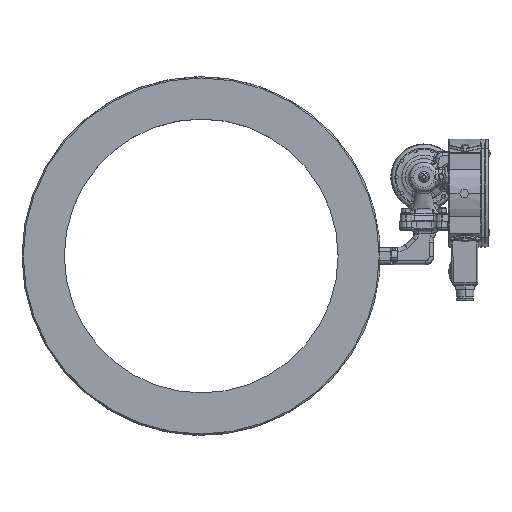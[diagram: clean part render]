
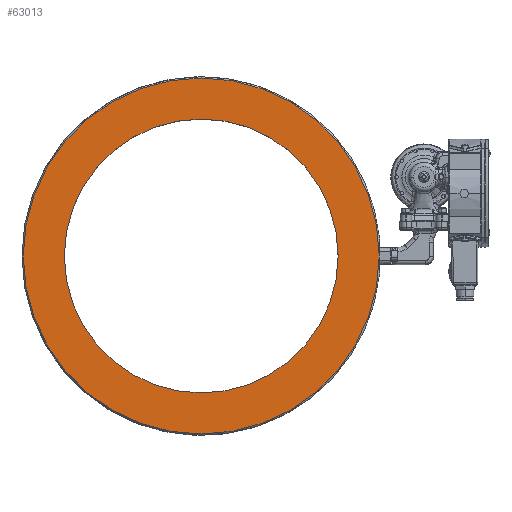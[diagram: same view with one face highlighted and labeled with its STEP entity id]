
A CAD part, top view. The second image highlights one B-rep face of the part: STEP entity #63013.
In plain terms, the highlighted planar face has unit normal (0, 0, 1).
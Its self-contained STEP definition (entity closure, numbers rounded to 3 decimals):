
#3829 = CARTESIAN_POINT ( 'NONE',  ( -276.69, 153.307, 57.468 ) ) ;
#8789 = VERTEX_POINT ( 'NONE', #33242 ) ;
#9644 = CARTESIAN_POINT ( 'NONE',  ( -276.69, -67.693, 57.468 ) ) ;
#9656 = EDGE_LOOP ( 'NONE', ( #34300, #86441 ) ) ;
#12800 = EDGE_CURVE ( 'NONE', #70460, #41458, #20972, .T. ) ;
#13115 = DIRECTION ( 'NONE',  ( 0., 0., -1. ) ) ;
#14732 = CIRCLE ( 'NONE', #26579, 170. ) ;
#15670 = DIRECTION ( 'NONE',  ( 1., 0., 0. ) ) ;
#17727 = DIRECTION ( 'NONE',  ( -1., 0., 0. ) ) ;
#20972 = CIRCLE ( 'NONE', #76804, 221. ) ;
#21550 = EDGE_CURVE ( 'NONE', #8789, #98481, #46839, .T. ) ;
#23385 = CARTESIAN_POINT ( 'NONE',  ( -276.69, -288.693, 57.468 ) ) ;
#24143 = DIRECTION ( 'NONE',  ( 0., 1., 0. ) ) ;
#24257 = DIRECTION ( 'NONE',  ( 0., 0., -1. ) ) ;
#24335 = CARTESIAN_POINT ( 'NONE',  ( -276.69, -67.693, 57.468 ) ) ;
#26579 = AXIS2_PLACEMENT_3D ( 'NONE', #42924, #97408, #50805 ) ;
#26864 = CIRCLE ( 'NONE', #93490, 221. ) ;
#30079 = FACE_OUTER_BOUND ( 'NONE', #9656, .T. ) ;
#33242 = CARTESIAN_POINT ( 'NONE',  ( -446.69, -67.693, 57.468 ) ) ;
#34300 = ORIENTED_EDGE ( 'NONE', *, *, #43474, .F. ) ;
#39210 = AXIS2_PLACEMENT_3D ( 'NONE', #9644, #64791, #17727 ) ;
#40642 = EDGE_CURVE ( 'NONE', #98481, #8789, #14732, .T. ) ;
#41458 = VERTEX_POINT ( 'NONE', #3829 ) ;
#42924 = CARTESIAN_POINT ( 'NONE',  ( -276.69, -67.693, 57.468 ) ) ;
#43474 = EDGE_CURVE ( 'NONE', #41458, #70460, #26864, .T. ) ;
#46839 = CIRCLE ( 'NONE', #39210, 170. ) ;
#50805 = DIRECTION ( 'NONE',  ( -1., 0., 0. ) ) ;
#51002 = FACE_BOUND ( 'NONE', #70249, .T. ) ;
#53385 = ORIENTED_EDGE ( 'NONE', *, *, #40642, .T. ) ;
#54992 = CARTESIAN_POINT ( 'NONE',  ( -256.391, -67.693, 57.468 ) ) ;
#55888 = AXIS2_PLACEMENT_3D ( 'NONE', #54992, #62847, #15670 ) ;
#60357 = CARTESIAN_POINT ( 'NONE',  ( -276.69, -67.693, 57.468 ) ) ;
#62847 = DIRECTION ( 'NONE',  ( 0., 0., 1. ) ) ;
#63013 = ADVANCED_FACE ( 'NONE', ( #30079, #51002 ), #100898, .T. ) ;
#64791 = DIRECTION ( 'NONE',  ( 0., 0., -1. ) ) ;
#68166 = DIRECTION ( 'NONE',  ( 0., 1., 0. ) ) ;
#70249 = EDGE_LOOP ( 'NONE', ( #80322, #53385 ) ) ;
#70460 = VERTEX_POINT ( 'NONE', #23385 ) ;
#75042 = CARTESIAN_POINT ( 'NONE',  ( -106.69, -67.693, 57.468 ) ) ;
#76804 = AXIS2_PLACEMENT_3D ( 'NONE', #24335, #24257, #24143 ) ;
#80322 = ORIENTED_EDGE ( 'NONE', *, *, #21550, .T. ) ;
#86441 = ORIENTED_EDGE ( 'NONE', *, *, #12800, .F. ) ;
#93490 = AXIS2_PLACEMENT_3D ( 'NONE', #60357, #13115, #68166 ) ;
#97408 = DIRECTION ( 'NONE',  ( 0., 0., -1. ) ) ;
#98481 = VERTEX_POINT ( 'NONE', #75042 ) ;
#100898 = PLANE ( 'NONE',  #55888 ) ;
